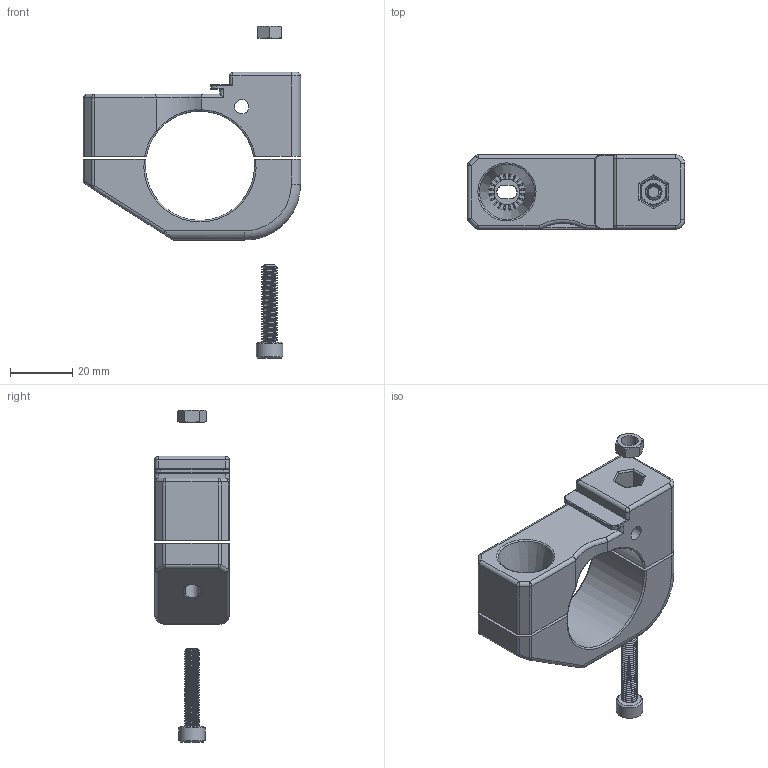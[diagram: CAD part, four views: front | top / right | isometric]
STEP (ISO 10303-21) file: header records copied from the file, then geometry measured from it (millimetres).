
FILE_DESCRIPTION(/* description */ (''),/* implementation_level */ '2;1');
FILE_NAME(/* name */ 'C:/Users/jcb/Nextcloud/Private/Downloads/Cycleafer 35mm clamp v46.step',/* time_stamp */ '2019-02-07T09:01:50+00:00',/* author */ ('jcb5PZ95'),/* organization */ (''),/* preprocessor_version */ 'ST-DEVELOPER v17.2',/* originating_system */ 'Autodesk Translation Framework v7.6.0.251',/* authorisation */ '');
FILE_SCHEMA (('AUTOMOTIVE_DESIGN { 1 0 10303 214 3 1 1 }'));
Length unit declared in the file: millimetre
Products named in the file (3): Cycleafer 35mm clamp; M5x25mmSocketHead; M5Nut
Assembly tree (2 placements, depth 2):
  Cycleafer 35mm clamp
    M5x25mmSocketHead
    M5Nut
Bounding box: 70 x 24 x 107 mm (x, y, z)
Volume: 44354.2 mm3; surface area: 16995.7 mm2
Topology: 4 solids, 4 shells, 420 faces, 1058 edges, 651 vertices
Faces by surface type: cylinder 208, plane 157, cone 22, torus 15, sphere 10, bspline 8
Full cylindrical faces by diameter (mm): 3.961 x30, 4.6 x1, 5 x30, 5.5 x3, 8.5 x1, 10 x1
Entity records: 19106 total; most frequent: CARTESIAN_POINT 9250, ORIENTED_EDGE 2116, DIRECTION 1953, EDGE_CURVE 1058, AXIS2_PLACEMENT_3D 705, VERTEX_POINT 651, LINE 543, VECTOR 543
